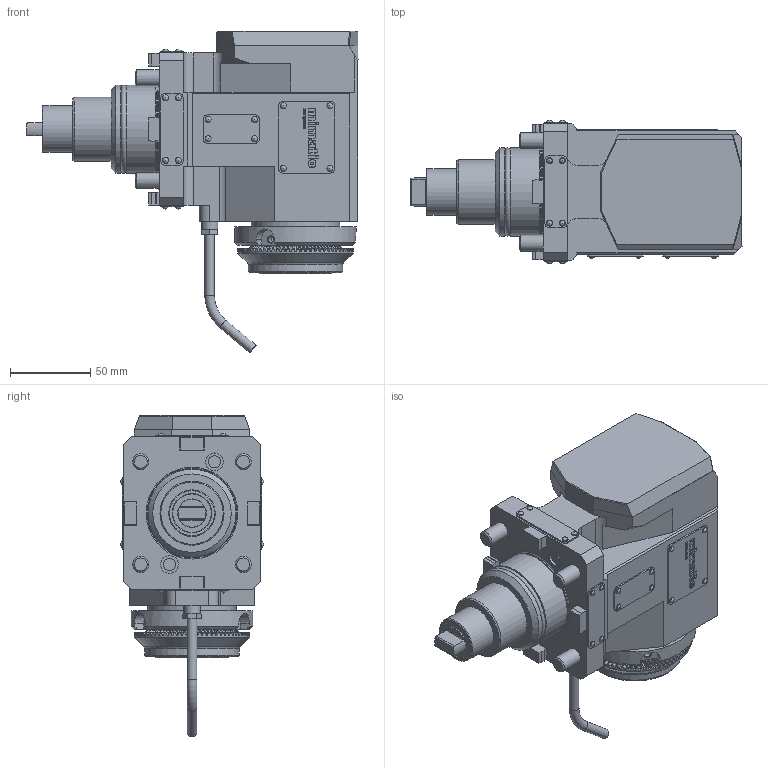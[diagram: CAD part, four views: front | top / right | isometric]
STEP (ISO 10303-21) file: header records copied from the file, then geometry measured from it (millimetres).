
FILE_DESCRIPTION(/* description */ (''),/* implementation_level */ '2;1');
FILE_NAME(/* name */ '188842',/* time_stamp */ '2020-09-04T13:45:17+02:00',/* author */ (''),/* organization */ (''),/* preprocessor_version */ 'ST-DEVELOPER v16.5',/* originating_system */ 'HiCAD 2017 2201.0 Build 268',/* authorisation */ '');
FILE_SCHEMA (('AUTOMOTIVE_DESIGN { 1 0 10303 214 1 1 1 1 }'));
Products named in the file (99): Root; Leeres Teil; ROTATIONSTEIL_0_103*; DIN 13-M25x1; DIN 76-M5; MI50; FEDERDRUCKSTÜCK; 112339_Federdruckstück ø6_40*; KUGEL D5; KUGEL D9; 114184_Kugel D9_50*; O-RING; 114078_O-Ring 8.5x1.27_60*; 00090786_20*; 00090784_10*; DIN 13-M48x1-LH; ROTATIONSTEIL_0_105*; 001_000X_102*; DIN 13-M20x1; 00040064_101*; 003_000X_104*; DIN 6912 - M 10 x 30 - 8.8_Zylinderkopfschraube DIN 6912 - M 10 x 30 
- 8.8_400*; GEWINDE; 114052_O-Ring 49x3_331*; BG_M10; TORUS_1_352*; 112384_Doppelkegelring D6_350*; 112485_Überwurfschraube_351*; Ïͮ; 173501_Kantsealring 7.65x1.68_330*; 00011769_371*; 113692_Kerbnagel 2x4_380*; QUADER_0_370*; GRUPPE; TRANSLATIONSTEIL_0_372*; TRANSLATIONSTEIL_1_112*; TRANSLATIONSTEIL_1_113*
Assembly tree (98 placements, depth 7):
  Root
    Leeres Teil
      Leeres Teil
        Leeres Teil
          ROTATIONSTEIL_0_103*
            DIN 13-M25x1
            DIN 76-M5
        MI50
          FEDERDRUCKSTÜCK
            112339_Federdruckstück ø6_40*
              KUGEL D5
            112339_Federdruckstück ø6_40*
              KUGEL D5
            112339_Federdruckstück ø6_40*
              KUGEL D5
          KUGEL D9
            114184_Kugel D9_50*
            114184_Kugel D9_50*
            114184_Kugel D9_50*
          O-RING
            114078_O-Ring 8.5x1.27_60*
            114078_O-Ring 8.5x1.27_60*
            114078_O-Ring 8.5x1.27_60*
          00090786_20*
          00090784_10*
            DIN 13-M48x1-LH
      Leeres Teil
        Leeres Teil
          ROTATIONSTEIL_0_105*
          001_000X_102*
            DIN 13-M20x1
      Leeres Teil
        Leeres Teil
          00040064_101*
          003_000X_104*
        Leeres Teil
          Leeres Teil
            DIN 6912 - M 10 x 30 - 8.8_Zylinderkopfschraube DIN 6912 - M 10 x 30 
- 8.8_400*
              GEWINDE
            DIN 6912 - M 10 x 30 - 8.8_Zylinderkopfschraube DIN 6912 - M 10 x 30 
- 8.8_400*
              GEWINDE
            DIN 6912 - M 10 x 30 - 8.8_Zylinderkopfschraube DIN 6912 - M 10 x 30 
- 8.8_400*
              GEWINDE
            DIN 6912 - M 10 x 30 - 8.8_Zylinderkopfschraube DIN 6912 - M 10 x 30 
- 8.8_400*
              GEWINDE
          Leeres Teil
            114052_O-Ring 49x3_331*
          BG_M10
            TORUS_1_352*
            112384_Doppelkegelring D6_350*
            112485_Überwurfschraube_351*
              Ïͮ
          173501_Kantsealring 7.65x1.68_330*
          173501_Kantsealring 7.65x1.68_330*
          Leeres Teil
            00011769_371*
            113692_Kerbnagel 2x4_380*
            113692_Kerbnagel 2x4_380*
            113692_Kerbnagel 2x4_380*
            113692_Kerbnagel 2x4_380*
Bounding box: 207 x 89.6 x 200.37 mm (x, y, z)
Volume: 1164740.3 mm3; surface area: 179033.6 mm2
Topology: 68 solids, 68 shells, 1576 faces, 4106 edges, 2695 vertices
Faces by surface type: plane 929, cylinder 284, cone 262, bspline 38, torus 33, sphere 30
Full cylindrical faces by diameter (mm): 2 x24, 2.2 x8, 2.3 x16, 4 x5, 5 x3, 6 x9, 6.5 x3, 7.2 x3, 7.65 x2, 8.16 x8, 8.773 x2, 9.12 x6, 10 x6, 11.01 x2, 11.1 x2, 11.2 x3, 18 x1, 29 x1, 36 x1, 40 x1, 45.5 x1, 46 x2, 46.15 x1, 47 x1, 48 x3, 48.3 x1, 49.6 x1, 52.623 x1, 53 x1, 54.5 x1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
Entity records: 91985 total; most frequent: CARTESIAN_POINT 15552, DIRECTION 8079, PRESENTATION_STYLE_ASSIGNMENT 7604, ORIENTED_EDGE 7550, COLOUR_RGB 7542, OVER_RIDING_STYLED_ITEM 7536, DRAUGHTING_PRE_DEFINED_CURVE_FONT 7534, CURVE_STYLE 7534
